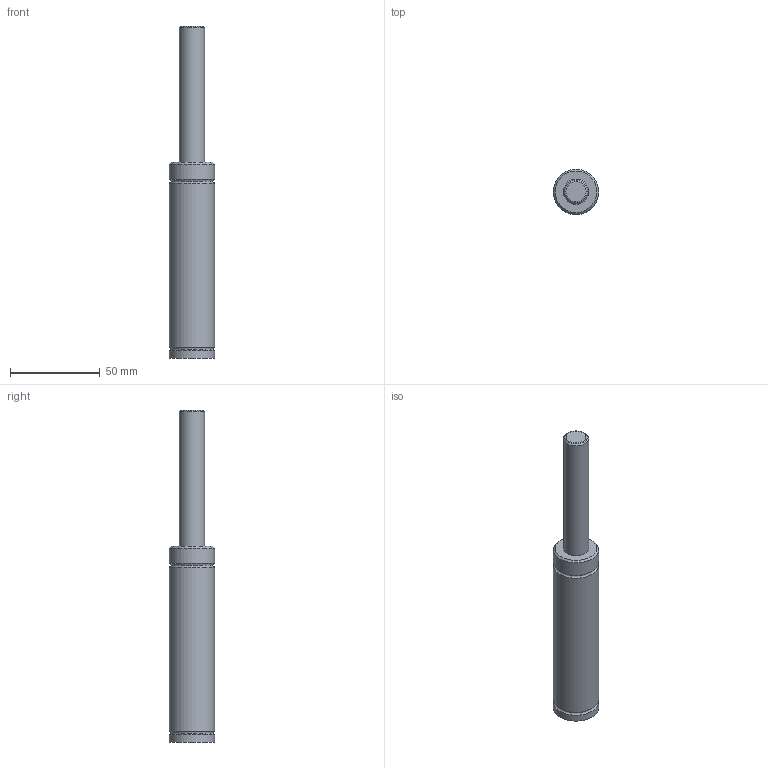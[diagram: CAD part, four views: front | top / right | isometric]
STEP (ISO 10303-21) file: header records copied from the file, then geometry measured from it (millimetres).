
FILE_DESCRIPTION(('FreeCAD Model'),'2;1');
FILE_NAME('Open CASCADE Shape Model','2024-11-11T17:21:27',('Author'),( ''),'Open CASCADE STEP processor 7.6','FreeCAD','Unknown');
FILE_SCHEMA(('AUTOMOTIVE_DESIGN { 1 0 10303 214 1 1 1 1 }'));
Length unit declared in the file: millimetre
Products named in the file (5): MICRO25x19_2; Part001; Fillet; Part003; Cut
Assembly tree (4 placements, depth 3):
  MICRO25x19_2
    Part001
      Fillet
    Part003
      Cut
Bounding box: 25.2 x 25.2 x 185 mm (x, y, z)
Volume: 65763.4 mm3; surface area: 13356.6 mm2
Topology: 2 solids, 2 shells, 15 faces, 24 edges, 13 vertices
Faces by surface type: torus 5, cylinder 4, plane 4, cone 2
Full cylindrical faces by diameter (mm): 14 x1, 25.2 x3
Entity records: 446 total; most frequent: DIRECTION 82, CARTESIAN_POINT 57, ORIENTED_EDGE 48, AXIS2_PLACEMENT_3D 38, EDGE_CURVE 24, CIRCLE 18, ADVANCED_FACE 15, FACE_BOUND 15
